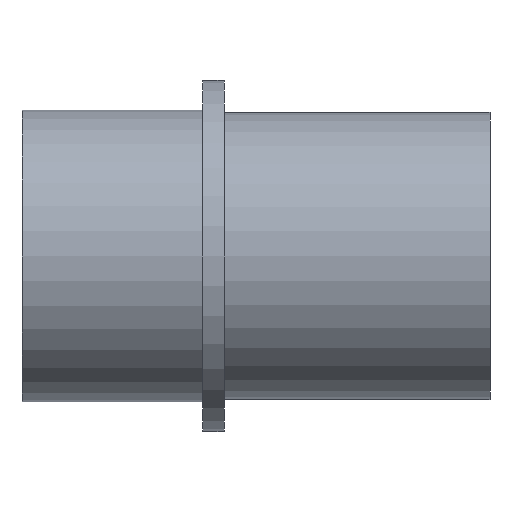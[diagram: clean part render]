
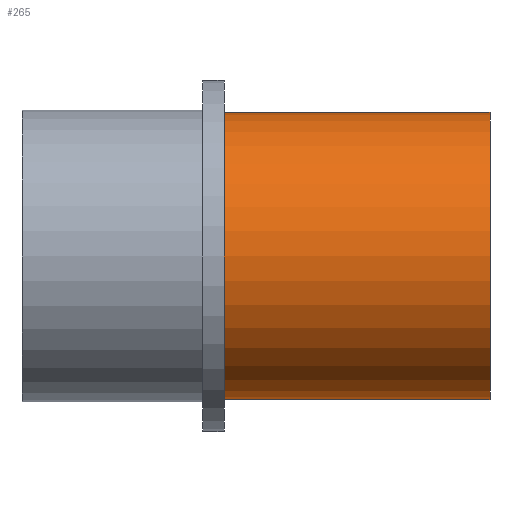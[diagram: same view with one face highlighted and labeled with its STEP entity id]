
A CAD part, front view. The second image highlights one B-rep face of the part: STEP entity #265.
In plain terms, the highlighted cylindrical face has radius 13.5 mm (diameter 27 mm), a full revolution.
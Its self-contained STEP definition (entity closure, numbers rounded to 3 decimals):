
#218 = PLANE('',#219);
#219 = AXIS2_PLACEMENT_3D('',#220,#221,#222);
#220 = CARTESIAN_POINT('',(19.,0.,0.));
#221 = DIRECTION('',(1.,0.,0.));
#222 = DIRECTION('',(-0.,1.,0.));
#237 = EDGE_CURVE('',#238,#238,#240,.T.);
#238 = VERTEX_POINT('',#239);
#239 = CARTESIAN_POINT('',(19.,13.5,0.));
#240 = SURFACE_CURVE('',#241,(#246,#253),.PCURVE_S1.);
#241 = CIRCLE('',#242,13.5);
#242 = AXIS2_PLACEMENT_3D('',#243,#244,#245);
#243 = CARTESIAN_POINT('',(19.,0.,0.));
#244 = DIRECTION('',(1.,0.,0.));
#245 = DIRECTION('',(-0.,1.,0.));
#246 = PCURVE('',#218,#247);
#247 = DEFINITIONAL_REPRESENTATION('',(#248),#252);
#248 = CIRCLE('',#249,13.5);
#249 = AXIS2_PLACEMENT_2D('',#250,#251);
#250 = CARTESIAN_POINT('',(0.,0.));
#251 = DIRECTION('',(1.,0.));
#252 = ( GEOMETRIC_REPRESENTATION_CONTEXT(2) 
PARAMETRIC_REPRESENTATION_CONTEXT() REPRESENTATION_CONTEXT('2D SPACE',''
  ) );
#253 = PCURVE('',#254,#259);
#254 = CYLINDRICAL_SURFACE('',#255,13.5);
#255 = AXIS2_PLACEMENT_3D('',#256,#257,#258);
#256 = CARTESIAN_POINT('',(19.,0.,0.));
#257 = DIRECTION('',(1.,0.,0.));
#258 = DIRECTION('',(-0.,1.,0.));
#259 = DEFINITIONAL_REPRESENTATION('',(#260),#264);
#260 = LINE('',#261,#262);
#261 = CARTESIAN_POINT('',(0.,0.));
#262 = VECTOR('',#263,1.);
#263 = DIRECTION('',(1.,0.));
#264 = ( GEOMETRIC_REPRESENTATION_CONTEXT(2) 
PARAMETRIC_REPRESENTATION_CONTEXT() REPRESENTATION_CONTEXT('2D SPACE',''
  ) );
#265 = ADVANCED_FACE('',(#266),#254,.T.);
#266 = FACE_BOUND('',#267,.T.);
#267 = EDGE_LOOP('',(#268,#269,#292,#319));
#268 = ORIENTED_EDGE('',*,*,#237,.T.);
#269 = ORIENTED_EDGE('',*,*,#270,.T.);
#270 = EDGE_CURVE('',#238,#271,#273,.T.);
#271 = VERTEX_POINT('',#272);
#272 = CARTESIAN_POINT('',(44.,13.5,0.));
#273 = SEAM_CURVE('',#274,(#278,#285),.PCURVE_S1.);
#274 = LINE('',#275,#276);
#275 = CARTESIAN_POINT('',(19.,13.5,0.));
#276 = VECTOR('',#277,1.);
#277 = DIRECTION('',(1.,0.,0.));
#278 = PCURVE('',#254,#279);
#279 = DEFINITIONAL_REPRESENTATION('',(#280),#284);
#280 = LINE('',#281,#282);
#281 = CARTESIAN_POINT('',(0.,0.));
#282 = VECTOR('',#283,1.);
#283 = DIRECTION('',(0.,1.));
#284 = ( GEOMETRIC_REPRESENTATION_CONTEXT(2) 
PARAMETRIC_REPRESENTATION_CONTEXT() REPRESENTATION_CONTEXT('2D SPACE',''
  ) );
#285 = PCURVE('',#254,#286);
#286 = DEFINITIONAL_REPRESENTATION('',(#287),#291);
#287 = LINE('',#288,#289);
#288 = CARTESIAN_POINT('',(6.283,0.));
#289 = VECTOR('',#290,1.);
#290 = DIRECTION('',(0.,1.));
#291 = ( GEOMETRIC_REPRESENTATION_CONTEXT(2) 
PARAMETRIC_REPRESENTATION_CONTEXT() REPRESENTATION_CONTEXT('2D SPACE',''
  ) );
#292 = ORIENTED_EDGE('',*,*,#293,.F.);
#293 = EDGE_CURVE('',#271,#271,#294,.T.);
#294 = SURFACE_CURVE('',#295,(#300,#307),.PCURVE_S1.);
#295 = CIRCLE('',#296,13.5);
#296 = AXIS2_PLACEMENT_3D('',#297,#298,#299);
#297 = CARTESIAN_POINT('',(44.,0.,0.));
#298 = DIRECTION('',(1.,0.,0.));
#299 = DIRECTION('',(-0.,1.,0.));
#300 = PCURVE('',#254,#301);
#301 = DEFINITIONAL_REPRESENTATION('',(#302),#306);
#302 = LINE('',#303,#304);
#303 = CARTESIAN_POINT('',(0.,25.));
#304 = VECTOR('',#305,1.);
#305 = DIRECTION('',(1.,0.));
#306 = ( GEOMETRIC_REPRESENTATION_CONTEXT(2) 
PARAMETRIC_REPRESENTATION_CONTEXT() REPRESENTATION_CONTEXT('2D SPACE',''
  ) );
#307 = PCURVE('',#308,#313);
#308 = PLANE('',#309);
#309 = AXIS2_PLACEMENT_3D('',#310,#311,#312);
#310 = CARTESIAN_POINT('',(44.,0.,0.));
#311 = DIRECTION('',(1.,0.,0.));
#312 = DIRECTION('',(-0.,1.,0.));
#313 = DEFINITIONAL_REPRESENTATION('',(#314),#318);
#314 = CIRCLE('',#315,13.5);
#315 = AXIS2_PLACEMENT_2D('',#316,#317);
#316 = CARTESIAN_POINT('',(0.,0.));
#317 = DIRECTION('',(1.,0.));
#318 = ( GEOMETRIC_REPRESENTATION_CONTEXT(2) 
PARAMETRIC_REPRESENTATION_CONTEXT() REPRESENTATION_CONTEXT('2D SPACE',''
  ) );
#319 = ORIENTED_EDGE('',*,*,#270,.F.);
